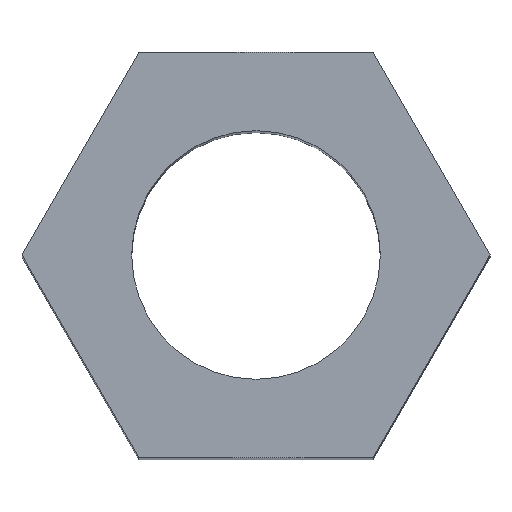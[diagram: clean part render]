
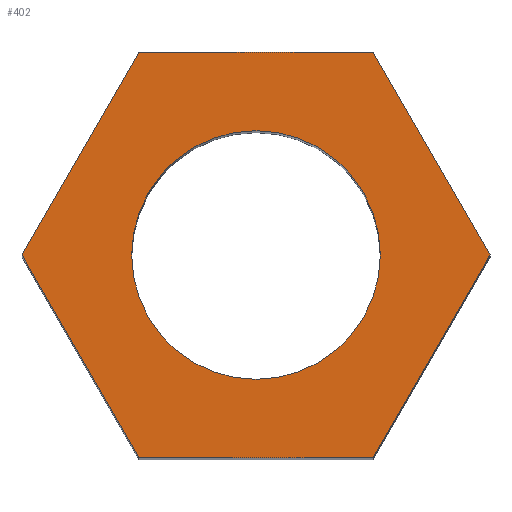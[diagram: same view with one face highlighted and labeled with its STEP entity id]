
A CAD part, top view. The second image highlights one B-rep face of the part: STEP entity #402.
In plain terms, the highlighted planar face has unit normal (0, 0, 1).
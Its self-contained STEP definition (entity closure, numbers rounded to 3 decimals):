
#24 = VERTEX_POINT('',#25);
#25 = CARTESIAN_POINT('',(-24.3,-17.5,16.002));
#32 = PLANE('',#33);
#33 = AXIS2_PLACEMENT_3D('',#34,#35,#36);
#34 = CARTESIAN_POINT('',(-24.3,-17.5,0.002));
#35 = DIRECTION('',(-0.866,-0.5,0.));
#36 = DIRECTION('',(-0.5,0.866,0.));
#44 = PLANE('',#45);
#45 = AXIS2_PLACEMENT_3D('',#46,#47,#48);
#46 = CARTESIAN_POINT('',(-25.9,-20.271,0.002));
#47 = DIRECTION('',(-0.866,0.5,0.));
#48 = DIRECTION('',(0.5,0.866,0.));
#56 = EDGE_CURVE('',#24,#57,#59,.T.);
#57 = VERTEX_POINT('',#58);
#58 = CARTESIAN_POINT('',(-25.9,-14.729,16.002));
#59 = SURFACE_CURVE('',#60,(#64,#71),.PCURVE_S1.);
#60 = LINE('',#61,#62);
#61 = CARTESIAN_POINT('',(-24.3,-17.5,16.002));
#62 = VECTOR('',#63,1.);
#63 = DIRECTION('',(-0.5,0.866,0.));
#64 = PCURVE('',#32,#65);
#65 = DEFINITIONAL_REPRESENTATION('',(#66),#70);
#66 = LINE('',#67,#68);
#67 = CARTESIAN_POINT('',(0.,-16.));
#68 = VECTOR('',#69,1.);
#69 = DIRECTION('',(1.,0.));
#70 = ( GEOMETRIC_REPRESENTATION_CONTEXT(2) 
PARAMETRIC_REPRESENTATION_CONTEXT() REPRESENTATION_CONTEXT('2D SPACE',''
  ) );
#71 = PCURVE('',#72,#77);
#72 = PLANE('',#73);
#73 = AXIS2_PLACEMENT_3D('',#74,#75,#76);
#74 = CARTESIAN_POINT('',(-27.5,-17.5,16.002));
#75 = DIRECTION('',(0.,0.,1.));
#76 = DIRECTION('',(1.,0.,-0.));
#77 = DEFINITIONAL_REPRESENTATION('',(#78),#82);
#78 = LINE('',#79,#80);
#79 = CARTESIAN_POINT('',(3.2,0.));
#80 = VECTOR('',#81,1.);
#81 = DIRECTION('',(-0.5,0.866));
#82 = ( GEOMETRIC_REPRESENTATION_CONTEXT(2) 
PARAMETRIC_REPRESENTATION_CONTEXT() REPRESENTATION_CONTEXT('2D SPACE',''
  ) );
#100 = PLANE('',#101);
#101 = AXIS2_PLACEMENT_3D('',#102,#103,#104);
#102 = CARTESIAN_POINT('',(-25.9,-14.729,0.002));
#103 = DIRECTION('',(0.,-1.,0.));
#104 = DIRECTION('',(-1.,0.,0.));
#144 = VERTEX_POINT('',#145);
#145 = CARTESIAN_POINT('',(-25.9,-20.271,16.002));
#159 = PLANE('',#160);
#160 = AXIS2_PLACEMENT_3D('',#161,#162,#163);
#161 = CARTESIAN_POINT('',(-29.1,-20.271,0.002));
#162 = DIRECTION('',(0.,1.,-0.));
#163 = DIRECTION('',(1.,0.,0.));
#171 = EDGE_CURVE('',#144,#24,#172,.T.);
#172 = SURFACE_CURVE('',#173,(#177,#184),.PCURVE_S1.);
#173 = LINE('',#174,#175);
#174 = CARTESIAN_POINT('',(-25.9,-20.271,16.002));
#175 = VECTOR('',#176,1.);
#176 = DIRECTION('',(0.5,0.866,0.));
#177 = PCURVE('',#44,#178);
#178 = DEFINITIONAL_REPRESENTATION('',(#179),#183);
#179 = LINE('',#180,#181);
#180 = CARTESIAN_POINT('',(0.,-16.));
#181 = VECTOR('',#182,1.);
#182 = DIRECTION('',(1.,0.));
#183 = ( GEOMETRIC_REPRESENTATION_CONTEXT(2) 
PARAMETRIC_REPRESENTATION_CONTEXT() REPRESENTATION_CONTEXT('2D SPACE',''
  ) );
#184 = PCURVE('',#72,#185);
#185 = DEFINITIONAL_REPRESENTATION('',(#186),#190);
#186 = LINE('',#187,#188);
#187 = CARTESIAN_POINT('',(1.6,-2.771));
#188 = VECTOR('',#189,1.);
#189 = DIRECTION('',(0.5,0.866));
#190 = ( GEOMETRIC_REPRESENTATION_CONTEXT(2) 
PARAMETRIC_REPRESENTATION_CONTEXT() REPRESENTATION_CONTEXT('2D SPACE',''
  ) );
#218 = EDGE_CURVE('',#57,#219,#221,.T.);
#219 = VERTEX_POINT('',#220);
#220 = CARTESIAN_POINT('',(-29.1,-14.729,16.002));
#221 = SURFACE_CURVE('',#222,(#226,#233),.PCURVE_S1.);
#222 = LINE('',#223,#224);
#223 = CARTESIAN_POINT('',(-25.9,-14.729,16.002));
#224 = VECTOR('',#225,1.);
#225 = DIRECTION('',(-1.,0.,0.));
#226 = PCURVE('',#100,#227);
#227 = DEFINITIONAL_REPRESENTATION('',(#228),#232);
#228 = LINE('',#229,#230);
#229 = CARTESIAN_POINT('',(0.,-16.));
#230 = VECTOR('',#231,1.);
#231 = DIRECTION('',(1.,0.));
#232 = ( GEOMETRIC_REPRESENTATION_CONTEXT(2) 
PARAMETRIC_REPRESENTATION_CONTEXT() REPRESENTATION_CONTEXT('2D SPACE',''
  ) );
#233 = PCURVE('',#72,#234);
#234 = DEFINITIONAL_REPRESENTATION('',(#235),#239);
#235 = LINE('',#236,#237);
#236 = CARTESIAN_POINT('',(1.6,2.771));
#237 = VECTOR('',#238,1.);
#238 = DIRECTION('',(-1.,0.));
#239 = ( GEOMETRIC_REPRESENTATION_CONTEXT(2) 
PARAMETRIC_REPRESENTATION_CONTEXT() REPRESENTATION_CONTEXT('2D SPACE',''
  ) );
#257 = PLANE('',#258);
#258 = AXIS2_PLACEMENT_3D('',#259,#260,#261);
#259 = CARTESIAN_POINT('',(-29.1,-14.729,0.002));
#260 = DIRECTION('',(0.866,-0.5,0.));
#261 = DIRECTION('',(-0.5,-0.866,0.));
#334 = PLANE('',#335);
#335 = AXIS2_PLACEMENT_3D('',#336,#337,#338);
#336 = CARTESIAN_POINT('',(-30.7,-17.5,0.002));
#337 = DIRECTION('',(0.866,0.5,-0.));
#338 = DIRECTION('',(0.5,-0.866,0.));
#391 = CYLINDRICAL_SURFACE('',#392,1.7);
#392 = AXIS2_PLACEMENT_3D('',#393,#394,#395);
#393 = CARTESIAN_POINT('',(-27.5,-17.5,-0.998));
#394 = DIRECTION('',(-0.,-0.,-1.));
#395 = DIRECTION('',(1.,0.,0.));
#402 = ADVANCED_FACE('',(#403,#475),#72,.T.);
#403 = FACE_BOUND('',#404,.T.);
#404 = EDGE_LOOP('',(#405,#406,#407,#430,#453,#474));
#405 = ORIENTED_EDGE('',*,*,#56,.T.);
#406 = ORIENTED_EDGE('',*,*,#218,.T.);
#407 = ORIENTED_EDGE('',*,*,#408,.T.);
#408 = EDGE_CURVE('',#219,#409,#411,.T.);
#409 = VERTEX_POINT('',#410);
#410 = CARTESIAN_POINT('',(-30.7,-17.5,16.002));
#411 = SURFACE_CURVE('',#412,(#416,#423),.PCURVE_S1.);
#412 = LINE('',#413,#414);
#413 = CARTESIAN_POINT('',(-29.1,-14.729,16.002));
#414 = VECTOR('',#415,1.);
#415 = DIRECTION('',(-0.5,-0.866,0.));
#416 = PCURVE('',#72,#417);
#417 = DEFINITIONAL_REPRESENTATION('',(#418),#422);
#418 = LINE('',#419,#420);
#419 = CARTESIAN_POINT('',(-1.6,2.771));
#420 = VECTOR('',#421,1.);
#421 = DIRECTION('',(-0.5,-0.866));
#422 = ( GEOMETRIC_REPRESENTATION_CONTEXT(2) 
PARAMETRIC_REPRESENTATION_CONTEXT() REPRESENTATION_CONTEXT('2D SPACE',''
  ) );
#423 = PCURVE('',#257,#424);
#424 = DEFINITIONAL_REPRESENTATION('',(#425),#429);
#425 = LINE('',#426,#427);
#426 = CARTESIAN_POINT('',(0.,-16.));
#427 = VECTOR('',#428,1.);
#428 = DIRECTION('',(1.,0.));
#429 = ( GEOMETRIC_REPRESENTATION_CONTEXT(2) 
PARAMETRIC_REPRESENTATION_CONTEXT() REPRESENTATION_CONTEXT('2D SPACE',''
  ) );
#430 = ORIENTED_EDGE('',*,*,#431,.T.);
#431 = EDGE_CURVE('',#409,#432,#434,.T.);
#432 = VERTEX_POINT('',#433);
#433 = CARTESIAN_POINT('',(-29.1,-20.271,16.002));
#434 = SURFACE_CURVE('',#435,(#439,#446),.PCURVE_S1.);
#435 = LINE('',#436,#437);
#436 = CARTESIAN_POINT('',(-30.7,-17.5,16.002));
#437 = VECTOR('',#438,1.);
#438 = DIRECTION('',(0.5,-0.866,0.));
#439 = PCURVE('',#72,#440);
#440 = DEFINITIONAL_REPRESENTATION('',(#441),#445);
#441 = LINE('',#442,#443);
#442 = CARTESIAN_POINT('',(-3.2,0.));
#443 = VECTOR('',#444,1.);
#444 = DIRECTION('',(0.5,-0.866));
#445 = ( GEOMETRIC_REPRESENTATION_CONTEXT(2) 
PARAMETRIC_REPRESENTATION_CONTEXT() REPRESENTATION_CONTEXT('2D SPACE',''
  ) );
#446 = PCURVE('',#334,#447);
#447 = DEFINITIONAL_REPRESENTATION('',(#448),#452);
#448 = LINE('',#449,#450);
#449 = CARTESIAN_POINT('',(0.,-16.));
#450 = VECTOR('',#451,1.);
#451 = DIRECTION('',(1.,0.));
#452 = ( GEOMETRIC_REPRESENTATION_CONTEXT(2) 
PARAMETRIC_REPRESENTATION_CONTEXT() REPRESENTATION_CONTEXT('2D SPACE',''
  ) );
#453 = ORIENTED_EDGE('',*,*,#454,.T.);
#454 = EDGE_CURVE('',#432,#144,#455,.T.);
#455 = SURFACE_CURVE('',#456,(#460,#467),.PCURVE_S1.);
#456 = LINE('',#457,#458);
#457 = CARTESIAN_POINT('',(-29.1,-20.271,16.002));
#458 = VECTOR('',#459,1.);
#459 = DIRECTION('',(1.,0.,0.));
#460 = PCURVE('',#72,#461);
#461 = DEFINITIONAL_REPRESENTATION('',(#462),#466);
#462 = LINE('',#463,#464);
#463 = CARTESIAN_POINT('',(-1.6,-2.771));
#464 = VECTOR('',#465,1.);
#465 = DIRECTION('',(1.,0.));
#466 = ( GEOMETRIC_REPRESENTATION_CONTEXT(2) 
PARAMETRIC_REPRESENTATION_CONTEXT() REPRESENTATION_CONTEXT('2D SPACE',''
  ) );
#467 = PCURVE('',#159,#468);
#468 = DEFINITIONAL_REPRESENTATION('',(#469),#473);
#469 = LINE('',#470,#471);
#470 = CARTESIAN_POINT('',(0.,-16.));
#471 = VECTOR('',#472,1.);
#472 = DIRECTION('',(1.,0.));
#473 = ( GEOMETRIC_REPRESENTATION_CONTEXT(2) 
PARAMETRIC_REPRESENTATION_CONTEXT() REPRESENTATION_CONTEXT('2D SPACE',''
  ) );
#474 = ORIENTED_EDGE('',*,*,#171,.T.);
#475 = FACE_BOUND('',#476,.T.);
#476 = EDGE_LOOP('',(#477));
#477 = ORIENTED_EDGE('',*,*,#478,.T.);
#478 = EDGE_CURVE('',#479,#479,#481,.T.);
#479 = VERTEX_POINT('',#480);
#480 = CARTESIAN_POINT('',(-25.8,-17.5,16.002));
#481 = SURFACE_CURVE('',#482,(#487,#498),.PCURVE_S1.);
#482 = CIRCLE('',#483,1.7);
#483 = AXIS2_PLACEMENT_3D('',#484,#485,#486);
#484 = CARTESIAN_POINT('',(-27.5,-17.5,16.002));
#485 = DIRECTION('',(0.,0.,-1.));
#486 = DIRECTION('',(1.,0.,0.));
#487 = PCURVE('',#72,#488);
#488 = DEFINITIONAL_REPRESENTATION('',(#489),#497);
#489 = ( BOUNDED_CURVE() B_SPLINE_CURVE(2,(#490,#491,#492,#493,#494,#495
,#496),.UNSPECIFIED.,.T.,.F.) B_SPLINE_CURVE_WITH_KNOTS((1,2,2,2,2,1),(
    -2.094,0.,2.094,4.189,6.283,
8.378),.UNSPECIFIED.) CURVE() GEOMETRIC_REPRESENTATION_ITEM() 
RATIONAL_B_SPLINE_CURVE((1.,0.5,1.,0.5,1.,0.5,1.)) REPRESENTATION_ITEM(
  '') );
#490 = CARTESIAN_POINT('',(1.7,0.));
#491 = CARTESIAN_POINT('',(1.7,-2.944));
#492 = CARTESIAN_POINT('',(-0.85,-1.472));
#493 = CARTESIAN_POINT('',(-3.4,0.));
#494 = CARTESIAN_POINT('',(-0.85,1.472));
#495 = CARTESIAN_POINT('',(1.7,2.944));
#496 = CARTESIAN_POINT('',(1.7,0.));
#497 = ( GEOMETRIC_REPRESENTATION_CONTEXT(2) 
PARAMETRIC_REPRESENTATION_CONTEXT() REPRESENTATION_CONTEXT('2D SPACE',''
  ) );
#498 = PCURVE('',#391,#499);
#499 = DEFINITIONAL_REPRESENTATION('',(#500),#504);
#500 = LINE('',#501,#502);
#501 = CARTESIAN_POINT('',(-6.283,-17.));
#502 = VECTOR('',#503,1.);
#503 = DIRECTION('',(1.,-0.));
#504 = ( GEOMETRIC_REPRESENTATION_CONTEXT(2) 
PARAMETRIC_REPRESENTATION_CONTEXT() REPRESENTATION_CONTEXT('2D SPACE',''
  ) );
